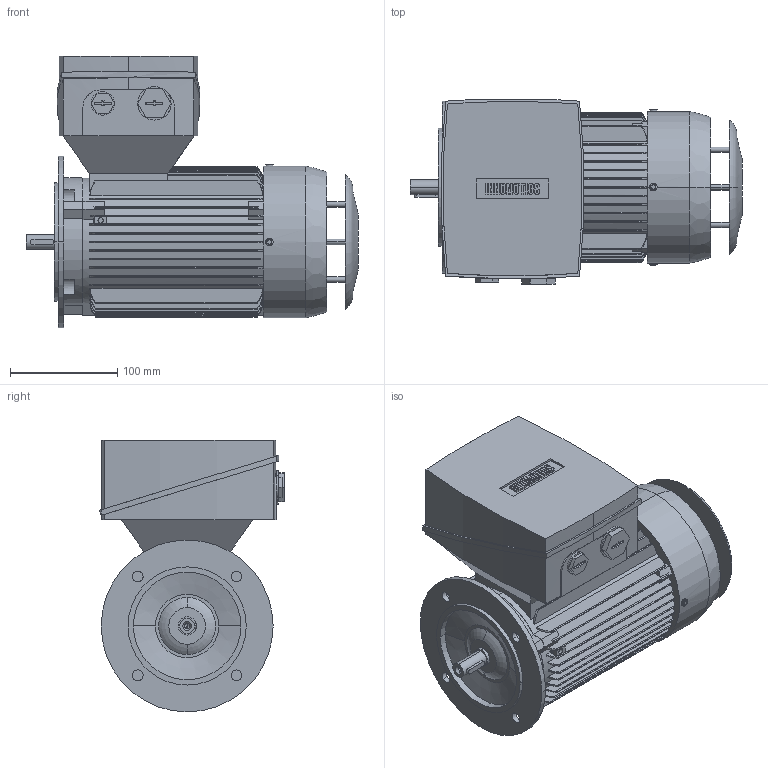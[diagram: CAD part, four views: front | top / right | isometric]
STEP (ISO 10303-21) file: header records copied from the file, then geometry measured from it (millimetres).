
FILE_DESCRIPTION(('STEP AP214'),'1');
FILE_NAME('cctmp_07AD16DB-1A40-4A34-813C-7156AC366BFD_2026_04_16_09_07_17_0183_33988..stp','2026-04-16T07:07:17',('KiM GmbH'),('CADClick - www.CADClick.com'),'Spatial InterOp 3D',' ','unknown authorization');
FILE_SCHEMA(('AUTOMOTIVE_DESIGN'));
Length unit declared in the file: millimetre
Products named in the file (1): 2026_04_16_09_07_17_0183
Bounding box: 309 x 171.96 x 253 mm (x, y, z)
Volume: 5156788.7 mm3; surface area: 407268 mm2
Topology: 1 solids, 1 shells, 750 faces, 2022 edges, 1329 vertices
Faces by surface type: plane 445, cylinder 191, torus 96, cone 18
Entity records: 34306 total; most frequent: CARTESIAN_POINT 9724, ORIENTED_EDGE 4016, DIRECTION 3631, EDGE_CURVE 2008, VERTEX_POINT 1329, AXIS2_PLACEMENT_3D 1235, LINE 1161, VECTOR 1161
